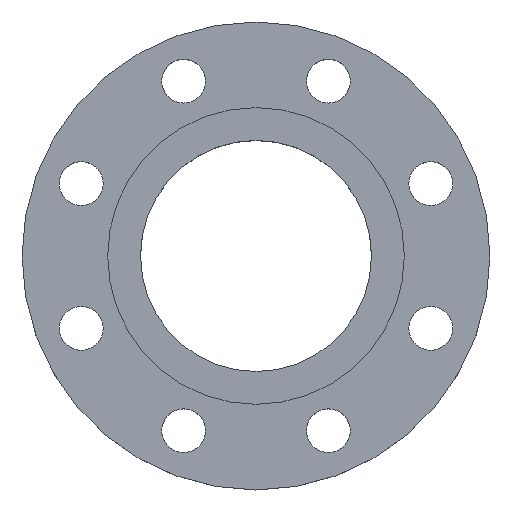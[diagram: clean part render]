
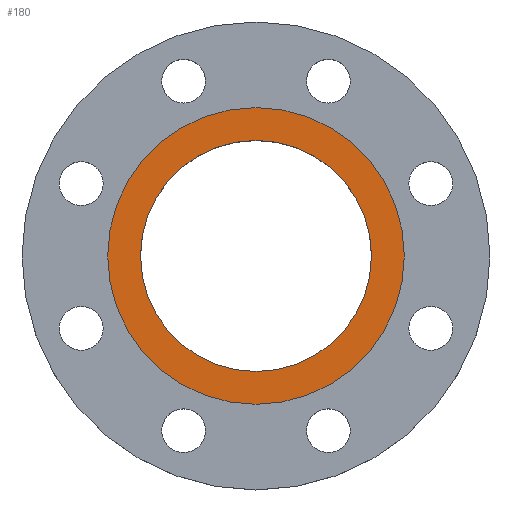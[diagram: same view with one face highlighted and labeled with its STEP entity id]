
A CAD part, top view. The second image highlights one B-rep face of the part: STEP entity #180.
In plain terms, the highlighted planar face has unit normal (0, 0, 1).
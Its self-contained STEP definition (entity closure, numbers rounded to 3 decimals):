
#47 = CIRCLE ( 'NONE', #49, 74.5 ) ;
#49 = AXIS2_PLACEMENT_3D ( 'NONE', #260, #258, #257 ) ;
#170 = CARTESIAN_POINT ( 'NONE',  ( 74.5, 0., 0. ) ) ;
#172 = CARTESIAN_POINT ( 'NONE',  ( -74.5, 0., 0. ) ) ;
#180 = ADVANCED_FACE ( 'NONE', ( #611, #612 ), #615, .T. ) ;
#234 = EDGE_CURVE ( 'NONE', #807, #797, #693, .T. ) ;
#238 = AXIS2_PLACEMENT_3D ( 'NONE', #372, #371, #370 ) ;
#257 = DIRECTION ( 'NONE',  ( -1., 0., 0. ) ) ;
#258 = DIRECTION ( 'NONE',  ( 0., 0., -1. ) ) ;
#260 = CARTESIAN_POINT ( 'NONE',  ( 0., 0., 0. ) ) ;
#356 = DIRECTION ( 'NONE',  ( 1., 0., 0. ) ) ;
#357 = DIRECTION ( 'NONE',  ( 0., 0., 1. ) ) ;
#358 = CARTESIAN_POINT ( 'NONE',  ( 0., 0., 0. ) ) ;
#370 = DIRECTION ( 'NONE',  ( 1., 0., 0. ) ) ;
#371 = DIRECTION ( 'NONE',  ( 0., 0., 1. ) ) ;
#372 = CARTESIAN_POINT ( 'NONE',  ( 0., 0., 0. ) ) ;
#407 = CARTESIAN_POINT ( 'NONE',  ( 58., 0., 0. ) ) ;
#409 = CARTESIAN_POINT ( 'NONE',  ( -58., 0., 0. ) ) ;
#437 = AXIS2_PLACEMENT_3D ( 'NONE', #633, #635, #636 ) ;
#517 = VERTEX_POINT ( 'NONE', #409 ) ;
#518 = VERTEX_POINT ( 'NONE', #407 ) ;
#611 = FACE_BOUND ( 'NONE', #1010, .T. ) ;
#612 = FACE_OUTER_BOUND ( 'NONE', #795, .T. ) ;
#614 = EDGE_CURVE ( 'NONE', #518, #517, #721, .T. ) ;
#615 = PLANE ( 'NONE',  #776 ) ;
#616 = CARTESIAN_POINT ( 'NONE',  ( 0., 0., 0. ) ) ;
#617 = DIRECTION ( 'NONE',  ( 0., 0., 1. ) ) ;
#618 = DIRECTION ( 'NONE',  ( 1., 0., 0. ) ) ;
#633 = CARTESIAN_POINT ( 'NONE',  ( 0., 0., 0. ) ) ;
#635 = DIRECTION ( 'NONE',  ( 0., 0., -1. ) ) ;
#636 = DIRECTION ( 'NONE',  ( -1., 0., 0. ) ) ;
#651 = AXIS2_PLACEMENT_3D ( 'NONE', #358, #357, #356 ) ;
#663 = CIRCLE ( 'NONE', #651, 58. ) ;
#684 = EDGE_CURVE ( 'NONE', #517, #518, #663, .T. ) ;
#693 = CIRCLE ( 'NONE', #437, 74.5 ) ;
#721 = CIRCLE ( 'NONE', #238, 58. ) ;
#729 = EDGE_CURVE ( 'NONE', #797, #807, #47, .T. ) ;
#776 = AXIS2_PLACEMENT_3D ( 'NONE', #616, #617, #618 ) ;
#795 = EDGE_LOOP ( 'NONE', ( #954, #956 ) ) ;
#797 = VERTEX_POINT ( 'NONE', #172 ) ;
#807 = VERTEX_POINT ( 'NONE', #170 ) ;
#951 = ORIENTED_EDGE ( 'NONE', *, *, #614, .F. ) ;
#953 = ORIENTED_EDGE ( 'NONE', *, *, #684, .F. ) ;
#954 = ORIENTED_EDGE ( 'NONE', *, *, #729, .F. ) ;
#956 = ORIENTED_EDGE ( 'NONE', *, *, #234, .F. ) ;
#1010 = EDGE_LOOP ( 'NONE', ( #951, #953 ) ) ;
